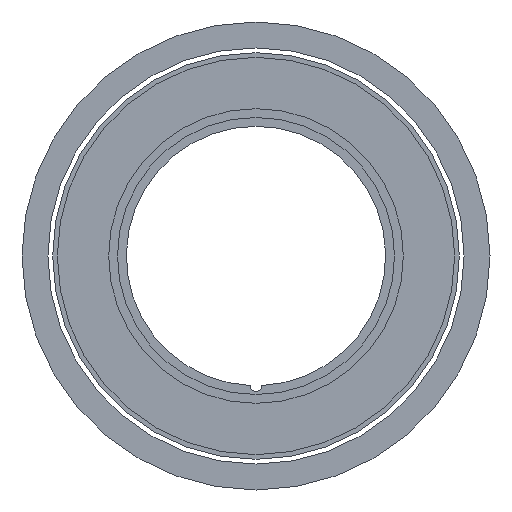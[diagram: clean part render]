
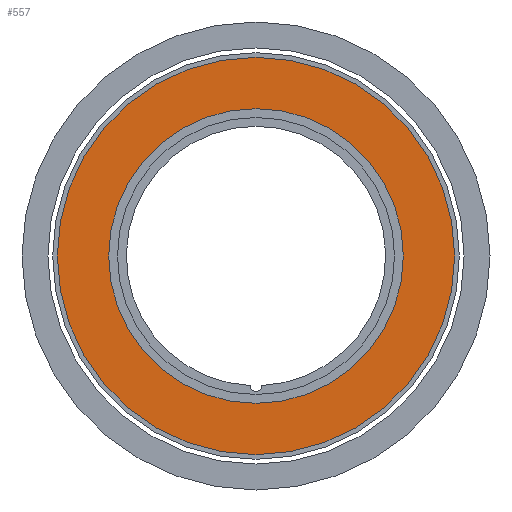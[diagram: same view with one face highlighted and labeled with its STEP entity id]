
A CAD part, front view. The second image highlights one B-rep face of the part: STEP entity #557.
In plain terms, the highlighted planar face has unit normal (0, -1, 0).
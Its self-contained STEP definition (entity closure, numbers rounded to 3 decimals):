
#3 = VERTEX_POINT ( 'NONE', #1335 ) ;
#16 = EDGE_CURVE ( 'NONE', #1318, #104, #291, .T. ) ;
#40 = EDGE_LOOP ( 'NONE', ( #715, #1207 ) ) ;
#53 = EDGE_CURVE ( 'NONE', #878, #3, #793, .T. ) ;
#92 = AXIS2_PLACEMENT_3D ( 'NONE', #377, #277, #1109 ) ;
#104 = VERTEX_POINT ( 'NONE', #333 ) ;
#174 = DIRECTION ( 'NONE',  ( 0., 0., 1. ) ) ;
#217 = ORIENTED_EDGE ( 'NONE', *, *, #673, .F. ) ;
#277 = DIRECTION ( 'NONE',  ( 0., -1., 0. ) ) ;
#291 = CIRCLE ( 'NONE', #576, 12.5 ) ;
#323 = DIRECTION ( 'NONE',  ( 0., -1., 0. ) ) ;
#333 = CARTESIAN_POINT ( 'NONE',  ( 0., -2., 12.5 ) ) ;
#377 = CARTESIAN_POINT ( 'NONE',  ( 0., -2., 0. ) ) ;
#396 = CARTESIAN_POINT ( 'NONE',  ( 0., -2., 0. ) ) ;
#412 = CARTESIAN_POINT ( 'NONE',  ( 0., -2., -12.5 ) ) ;
#511 = AXIS2_PLACEMENT_3D ( 'NONE', #396, #696, #174 ) ;
#557 = ADVANCED_FACE ( 'NONE', ( #860, #1267 ), #1282, .F. ) ;
#576 = AXIS2_PLACEMENT_3D ( 'NONE', #802, #1135, #1218 ) ;
#624 = AXIS2_PLACEMENT_3D ( 'NONE', #951, #758, #974 ) ;
#673 = EDGE_CURVE ( 'NONE', #104, #1318, #1278, .T. ) ;
#677 = AXIS2_PLACEMENT_3D ( 'NONE', #950, #323, #737 ) ;
#696 = DIRECTION ( 'NONE',  ( 0., -1., 0. ) ) ;
#715 = ORIENTED_EDGE ( 'NONE', *, *, #936, .T. ) ;
#737 = DIRECTION ( 'NONE',  ( 0., 0., 1. ) ) ;
#758 = DIRECTION ( 'NONE',  ( 0., 1., 0. ) ) ;
#793 = CIRCLE ( 'NONE', #511, 16.85 ) ;
#802 = CARTESIAN_POINT ( 'NONE',  ( 0., -2., 0. ) ) ;
#860 = FACE_OUTER_BOUND ( 'NONE', #40, .T. ) ;
#878 = VERTEX_POINT ( 'NONE', #1236 ) ;
#936 = EDGE_CURVE ( 'NONE', #3, #878, #986, .T. ) ;
#950 = CARTESIAN_POINT ( 'NONE',  ( 0., -2., 0. ) ) ;
#951 = CARTESIAN_POINT ( 'NONE',  ( 0., -2., 0. ) ) ;
#974 = DIRECTION ( 'NONE',  ( 0., 0., 1. ) ) ;
#986 = CIRCLE ( 'NONE', #677, 16.85 ) ;
#1045 = EDGE_LOOP ( 'NONE', ( #217, #1128 ) ) ;
#1109 = DIRECTION ( 'NONE',  ( 0., 0., 1. ) ) ;
#1128 = ORIENTED_EDGE ( 'NONE', *, *, #16, .F. ) ;
#1135 = DIRECTION ( 'NONE',  ( 0., -1., 0. ) ) ;
#1207 = ORIENTED_EDGE ( 'NONE', *, *, #53, .T. ) ;
#1218 = DIRECTION ( 'NONE',  ( 0., 0., 1. ) ) ;
#1236 = CARTESIAN_POINT ( 'NONE',  ( 0., -2., -16.85 ) ) ;
#1267 = FACE_BOUND ( 'NONE', #1045, .T. ) ;
#1278 = CIRCLE ( 'NONE', #92, 12.5 ) ;
#1282 = PLANE ( 'NONE',  #624 ) ;
#1318 = VERTEX_POINT ( 'NONE', #412 ) ;
#1335 = CARTESIAN_POINT ( 'NONE',  ( 0., -2., 16.85 ) ) ;
